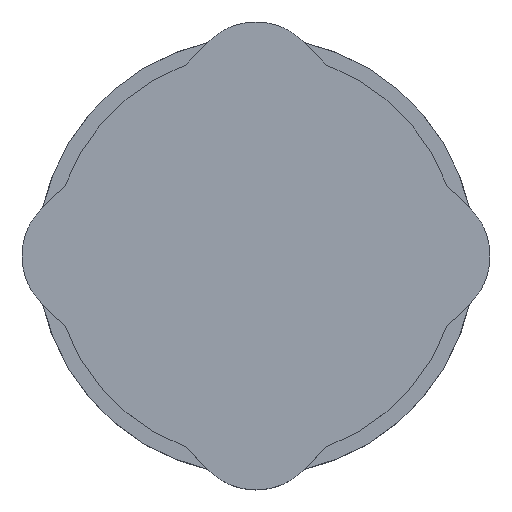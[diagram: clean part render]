
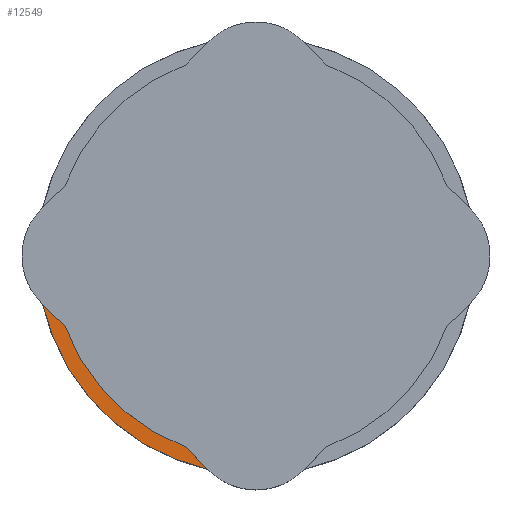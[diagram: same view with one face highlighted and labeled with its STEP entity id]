
A CAD part, top view. The second image highlights one B-rep face of the part: STEP entity #12549.
In plain terms, the highlighted planar face has unit normal (0, 0, 1).
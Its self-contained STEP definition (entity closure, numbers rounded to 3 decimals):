
#32 = CYLINDRICAL_SURFACE('',#33,28.8);
#33 = AXIS2_PLACEMENT_3D('',#34,#35,#36);
#34 = CARTESIAN_POINT('',(0.,0.,6.1));
#35 = DIRECTION('',(-0.,-0.,-1.));
#36 = DIRECTION('',(1.,0.,0.));
#329 = VERTEX_POINT('',#330);
#330 = CARTESIAN_POINT('',(-28.09,-6.355,19.8));
#343 = PLANE('',#344);
#344 = AXIS2_PLACEMENT_3D('',#345,#346,#347);
#345 = CARTESIAN_POINT('',(-6.223,-28.223,8.6));
#346 = DIRECTION('',(-0.707,-0.707,0.));
#347 = DIRECTION('',(-0.707,0.707,0.));
#354 = EDGE_CURVE('',#329,#355,#357,.T.);
#355 = VERTEX_POINT('',#356);
#356 = CARTESIAN_POINT('',(-6.355,-28.09,19.8));
#357 = SURFACE_CURVE('',#358,(#363,#370),.PCURVE_S1.);
#358 = CIRCLE('',#359,28.8);
#359 = AXIS2_PLACEMENT_3D('',#360,#361,#362);
#360 = CARTESIAN_POINT('',(0.,0.,19.8));
#361 = DIRECTION('',(0.,0.,1.));
#362 = DIRECTION('',(1.,0.,0.));
#363 = PCURVE('',#32,#364);
#364 = DEFINITIONAL_REPRESENTATION('',(#365),#369);
#365 = LINE('',#366,#367);
#366 = CARTESIAN_POINT('',(-0.,-13.7));
#367 = VECTOR('',#368,1.);
#368 = DIRECTION('',(-1.,0.));
#369 = ( GEOMETRIC_REPRESENTATION_CONTEXT(2) 
PARAMETRIC_REPRESENTATION_CONTEXT() REPRESENTATION_CONTEXT('2D SPACE',''
  ) );
#370 = PCURVE('',#371,#376);
#371 = PLANE('',#372);
#372 = AXIS2_PLACEMENT_3D('',#373,#374,#375);
#373 = CARTESIAN_POINT('',(0.,0.,19.8)
  );
#374 = DIRECTION('',(0.,0.,1.));
#375 = DIRECTION('',(1.,0.,-0.));
#376 = DEFINITIONAL_REPRESENTATION('',(#377),#381);
#377 = CIRCLE('',#378,28.8);
#378 = AXIS2_PLACEMENT_2D('',#379,#380);
#379 = CARTESIAN_POINT('',(0.,0.));
#380 = DIRECTION('',(1.,0.));
#381 = ( GEOMETRIC_REPRESENTATION_CONTEXT(2) 
PARAMETRIC_REPRESENTATION_CONTEXT() REPRESENTATION_CONTEXT('2D SPACE',''
  ) );
#398 = PLANE('',#399);
#399 = AXIS2_PLACEMENT_3D('',#400,#401,#402);
#400 = CARTESIAN_POINT('',(-6.223,-28.223,8.6));
#401 = DIRECTION('',(-0.707,-0.707,0.));
#402 = DIRECTION('',(-0.707,0.707,0.));
#2865 = CYLINDRICAL_SURFACE('',#2866,26.8);
#2866 = AXIS2_PLACEMENT_3D('',#2867,#2868,#2869);
#2867 = CARTESIAN_POINT('',(0.,0.,19.8));
#2868 = DIRECTION('',(-0.,-0.,-1.));
#2869 = DIRECTION('',(1.,0.,0.));
#10426 = VERTEX_POINT('',#10427);
#10427 = CARTESIAN_POINT('',(-9.317,-25.128,19.8));
#10446 = EDGE_CURVE('',#10447,#10426,#10449,.T.);
#10447 = VERTEX_POINT('',#10448);
#10448 = CARTESIAN_POINT('',(-25.128,-9.317,19.8));
#10449 = SURFACE_CURVE('',#10450,(#10455,#10462),.PCURVE_S1.);
#10450 = CIRCLE('',#10451,26.8);
#10451 = AXIS2_PLACEMENT_3D('',#10452,#10453,#10454);
#10452 = CARTESIAN_POINT('',(0.,0.,19.8));
#10453 = DIRECTION('',(0.,0.,1.));
#10454 = DIRECTION('',(1.,0.,0.));
#10455 = PCURVE('',#2865,#10456);
#10456 = DEFINITIONAL_REPRESENTATION('',(#10457),#10461);
#10457 = LINE('',#10458,#10459);
#10458 = CARTESIAN_POINT('',(-0.,0.));
#10459 = VECTOR('',#10460,1.);
#10460 = DIRECTION('',(-1.,0.));
#10461 = ( GEOMETRIC_REPRESENTATION_CONTEXT(2) 
PARAMETRIC_REPRESENTATION_CONTEXT() REPRESENTATION_CONTEXT('2D SPACE',''
  ) );
#10462 = PCURVE('',#371,#10463);
#10463 = DEFINITIONAL_REPRESENTATION('',(#10464),#10468);
#10464 = CIRCLE('',#10465,26.8);
#10465 = AXIS2_PLACEMENT_2D('',#10466,#10467);
#10466 = CARTESIAN_POINT('',(0.,0.));
#10467 = DIRECTION('',(1.,0.));
#10468 = ( GEOMETRIC_REPRESENTATION_CONTEXT(2) 
PARAMETRIC_REPRESENTATION_CONTEXT() REPRESENTATION_CONTEXT('2D SPACE',''
  ) );
#12531 = EDGE_CURVE('',#329,#10447,#12532,.T.);
#12532 = SURFACE_CURVE('',#12533,(#12537,#12543),.PCURVE_S1.);
#12533 = LINE('',#12534,#12535);
#12534 = CARTESIAN_POINT('',(-11.723,-22.723,19.8));
#12535 = VECTOR('',#12536,1.);
#12536 = DIRECTION('',(0.707,-0.707,0.));
#12537 = PCURVE('',#343,#12538);
#12538 = DEFINITIONAL_REPRESENTATION('',(#12539),#12542);
#12539 = B_SPLINE_CURVE_WITH_KNOTS('',1,(#12540,#12541),.UNSPECIFIED.,
  .F.,.F.,(2,2),(-23.335,7.778),
  .PIECEWISE_BEZIER_KNOTS.);
#12540 = CARTESIAN_POINT('',(31.113,-11.2));
#12541 = CARTESIAN_POINT('',(0.,-11.2));
#12542 = ( GEOMETRIC_REPRESENTATION_CONTEXT(2) 
PARAMETRIC_REPRESENTATION_CONTEXT() REPRESENTATION_CONTEXT('2D SPACE',''
  ) );
#12543 = PCURVE('',#371,#12544);
#12544 = DEFINITIONAL_REPRESENTATION('',(#12545),#12548);
#12545 = B_SPLINE_CURVE_WITH_KNOTS('',1,(#12546,#12547),.UNSPECIFIED.,
  .F.,.F.,(2,2),(-23.335,7.778),
  .PIECEWISE_BEZIER_KNOTS.);
#12546 = CARTESIAN_POINT('',(-28.223,-6.223));
#12547 = CARTESIAN_POINT('',(-6.223,-28.223));
#12548 = ( GEOMETRIC_REPRESENTATION_CONTEXT(2) 
PARAMETRIC_REPRESENTATION_CONTEXT() REPRESENTATION_CONTEXT('2D SPACE',''
  ) );
#12549 = ADVANCED_FACE('',(#12550),#371,.T.);
#12550 = FACE_BOUND('',#12551,.T.);
#12551 = EDGE_LOOP('',(#12552,#12553,#12572,#12573));
#12552 = ORIENTED_EDGE('',*,*,#354,.T.);
#12553 = ORIENTED_EDGE('',*,*,#12554,.F.);
#12554 = EDGE_CURVE('',#10426,#355,#12555,.T.);
#12555 = SURFACE_CURVE('',#12556,(#12560,#12566),.PCURVE_S1.);
#12556 = LINE('',#12557,#12558);
#12557 = CARTESIAN_POINT('',(-11.723,-22.723,19.8));
#12558 = VECTOR('',#12559,1.);
#12559 = DIRECTION('',(0.707,-0.707,0.));
#12560 = PCURVE('',#371,#12561);
#12561 = DEFINITIONAL_REPRESENTATION('',(#12562),#12565);
#12562 = B_SPLINE_CURVE_WITH_KNOTS('',1,(#12563,#12564),.UNSPECIFIED.,
  .F.,.F.,(2,2),(-23.335,7.778),
  .PIECEWISE_BEZIER_KNOTS.);
#12563 = CARTESIAN_POINT('',(-28.223,-6.223));
#12564 = CARTESIAN_POINT('',(-6.223,-28.223));
#12565 = ( GEOMETRIC_REPRESENTATION_CONTEXT(2) 
PARAMETRIC_REPRESENTATION_CONTEXT() REPRESENTATION_CONTEXT('2D SPACE',''
  ) );
#12566 = PCURVE('',#398,#12567);
#12567 = DEFINITIONAL_REPRESENTATION('',(#12568),#12571);
#12568 = B_SPLINE_CURVE_WITH_KNOTS('',1,(#12569,#12570),.UNSPECIFIED.,
  .F.,.F.,(2,2),(-23.335,7.778),
  .PIECEWISE_BEZIER_KNOTS.);
#12569 = CARTESIAN_POINT('',(31.113,-11.2));
#12570 = CARTESIAN_POINT('',(0.,-11.2));
#12571 = ( GEOMETRIC_REPRESENTATION_CONTEXT(2) 
PARAMETRIC_REPRESENTATION_CONTEXT() REPRESENTATION_CONTEXT('2D SPACE',''
  ) );
#12572 = ORIENTED_EDGE('',*,*,#10446,.F.);
#12573 = ORIENTED_EDGE('',*,*,#12531,.F.);
